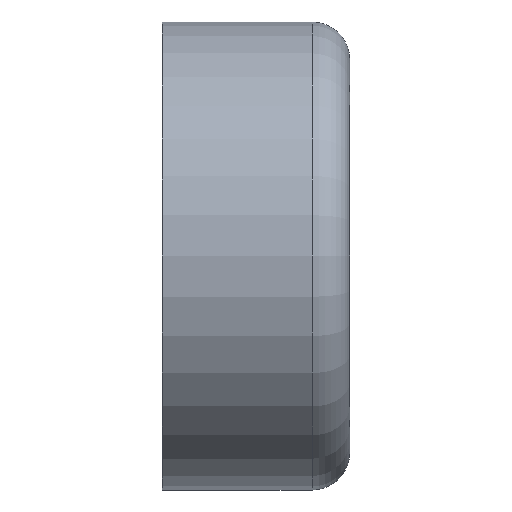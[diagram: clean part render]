
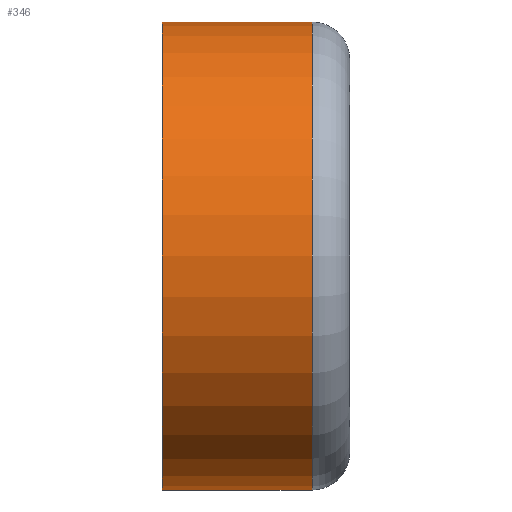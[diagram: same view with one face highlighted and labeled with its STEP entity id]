
A CAD part, left-side view. The second image highlights one B-rep face of the part: STEP entity #346.
In plain terms, the highlighted cylindrical face has radius 12.5 mm (diameter 25 mm), a partial arc.
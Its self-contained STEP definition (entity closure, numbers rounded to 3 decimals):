
#16 = AXIS2_PLACEMENT_3D ( 'NONE', #66, #99, #136 ) ;
#19 = VERTEX_POINT ( 'NONE', #273 ) ;
#32 = VECTOR ( 'NONE', #297, 1000. ) ;
#37 = ORIENTED_EDGE ( 'NONE', *, *, #373, .F. ) ;
#38 = CARTESIAN_POINT ( 'NONE',  ( 0., -8., 0. ) ) ;
#41 = DIRECTION ( 'NONE',  ( 0., 0., 1. ) ) ;
#56 = CIRCLE ( 'NONE', #387, 12.5 ) ;
#57 = EDGE_LOOP ( 'NONE', ( #37, #203, #105, #362 ) ) ;
#66 = CARTESIAN_POINT ( 'NONE',  ( 0., 0., 0. ) ) ;
#71 = EDGE_CURVE ( 'NONE', #325, #19, #435, .T. ) ;
#81 = CARTESIAN_POINT ( 'NONE',  ( 0., -10., 0. ) ) ;
#89 = EDGE_CURVE ( 'NONE', #147, #19, #207, .T. ) ;
#99 = DIRECTION ( 'NONE',  ( 0., 1., 0. ) ) ;
#104 = VECTOR ( 'NONE', #413, 1000. ) ;
#105 = ORIENTED_EDGE ( 'NONE', *, *, #89, .T. ) ;
#136 = DIRECTION ( 'NONE',  ( 0., 0., 1. ) ) ;
#143 = DIRECTION ( 'NONE',  ( 0., 1., 0. ) ) ;
#145 = FACE_OUTER_BOUND ( 'NONE', #57, .T. ) ;
#147 = VERTEX_POINT ( 'NONE', #440 ) ;
#161 = AXIS2_PLACEMENT_3D ( 'NONE', #81, #322, #187 ) ;
#182 = CARTESIAN_POINT ( 'NONE',  ( 0., -8., -12.5 ) ) ;
#187 = DIRECTION ( 'NONE',  ( 0., 0., 1. ) ) ;
#203 = ORIENTED_EDGE ( 'NONE', *, *, #321, .T. ) ;
#207 = LINE ( 'NONE', #216, #104 ) ;
#216 = CARTESIAN_POINT ( 'NONE',  ( 0., -10., 12.5 ) ) ;
#229 = VERTEX_POINT ( 'NONE', #182 ) ;
#235 = LINE ( 'NONE', #267, #32 ) ;
#267 = CARTESIAN_POINT ( 'NONE',  ( 0., -10., -12.5 ) ) ;
#273 = CARTESIAN_POINT ( 'NONE',  ( 0., 0., 12.5 ) ) ;
#297 = DIRECTION ( 'NONE',  ( 0., 1., 0. ) ) ;
#307 = CYLINDRICAL_SURFACE ( 'NONE', #161, 12.5 ) ;
#321 = EDGE_CURVE ( 'NONE', #229, #147, #56, .T. ) ;
#322 = DIRECTION ( 'NONE',  ( 0., 1., 0. ) ) ;
#325 = VERTEX_POINT ( 'NONE', #384 ) ;
#346 = ADVANCED_FACE ( 'NONE', ( #145 ), #307, .T. ) ;
#362 = ORIENTED_EDGE ( 'NONE', *, *, #71, .F. ) ;
#373 = EDGE_CURVE ( 'NONE', #229, #325, #235, .T. ) ;
#384 = CARTESIAN_POINT ( 'NONE',  ( 0., 0., -12.5 ) ) ;
#387 = AXIS2_PLACEMENT_3D ( 'NONE', #38, #143, #41 ) ;
#413 = DIRECTION ( 'NONE',  ( 0., 1., 0. ) ) ;
#435 = CIRCLE ( 'NONE', #16, 12.5 ) ;
#440 = CARTESIAN_POINT ( 'NONE',  ( 0., -8., 12.5 ) ) ;
